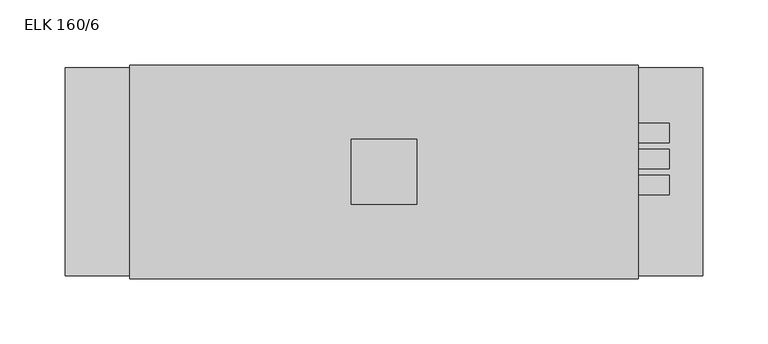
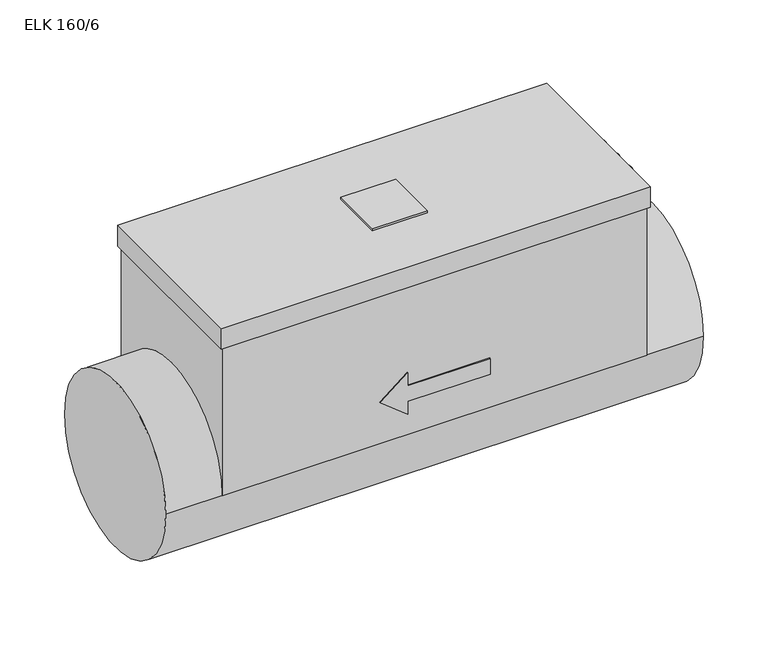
"""IFC4 building model written with IfcOpenShell, lengths in millimetres: proxy geometry, KORF_Нагреватель_Электрический_Круглый_ELK : ELK 160/6."""

import ifcopenshell
import ifcopenshell.guid

model = None  # the IFC model being written
_history = None  # IfcOwnerHistory: only IFC2X3 demands one
_inside = {}  # id of a spatial element -> (the spatial element, [elements in it])
_under = {}  # id of a project, library or spatial element -> (it, [spatial elements below it])
_declared = {}  # id of a project -> (the project, [libraries it declares])
_typed = {}  # id of a type object -> (the type object, [elements of that type])
_made_of = {}  # id of a material, layer set ... -> (it, [elements and type objects made of it])


def new_model(schema):
    """Start an empty IFC model of exactly this schema.

    Asked for "IFC4X3", IfcOpenShell would pick the latest addendum, in which some entities
    have other attributes; the version numbers below select the first issue.
    IFC2X3 requires an IfcOwnerHistory on every rooted entity: one is made here for all.
    """
    global model, _history
    if schema == "IFC4X3":
        model = ifcopenshell.file(schema_version=(4, 3, 0, 0))
    else:
        model = ifcopenshell.file(schema=schema)
    _inside.clear()
    _under.clear()
    _declared.clear()
    _typed.clear()
    _made_of.clear()
    _history = None
    if model.schema == "IFC2X3":
        org = make("IfcOrganization", Name="unknown")
        user = make(
            "IfcPersonAndOrganization",
            ThePerson=make("IfcPerson", FamilyName="unknown"),
            TheOrganization=org,
        )
        app = make(
            "IfcApplication",
            ApplicationDeveloper=org,
            Version="unknown",
            ApplicationFullName="unknown",
            ApplicationIdentifier="unknown",
        )
        _history = make(
            "IfcOwnerHistory",
            OwningUser=user,
            OwningApplication=app,
            ChangeAction="ADDED",
            CreationDate=0,
        )
    return model


def make(cls, **values):
    """One entity of the class cls with the attributes given. An attribute that is None is left unset."""
    return model.create_entity(
        cls, **{name: value for name, value in values.items() if value is not None}
    )


def rooted(cls, **values):
    """An entity with a GlobalId (a new one), such as an element, a storey or a relation."""
    return make(cls, GlobalId=ifcopenshell.guid.new(), OwnerHistory=_history, **values)


def si_unit(unit_type, name, prefix=None):
    """IfcSIUnit, for example si_unit("LENGTHUNIT", "METRE", prefix="MILLI")."""
    return make("IfcSIUnit", UnitType=unit_type, Prefix=prefix, Name=name)


def assignment(units):
    """IfcUnitAssignment: the units of a project."""
    return None if units is None else make("IfcUnitAssignment", Units=units)


def point(xyz):
    """IfcCartesianPoint."""
    return None if xyz is None else make("IfcCartesianPoint", Coordinates=xyz)


def direction(xyz):
    """IfcDirection."""
    return None if xyz is None else make("IfcDirection", DirectionRatios=xyz)


def frame(location, z_axis=None, x_axis=None):
    """IfcAxis2Placement3D, a coordinate frame: its origin and axes. An axis left out is left unset."""
    return make(
        "IfcAxis2Placement3D",
        Location=point(location),
        Axis=direction(z_axis),
        RefDirection=direction(x_axis),
    )


def frame_2d(location, x_axis=None):
    """IfcAxis2Placement2D, a coordinate frame in the plane: its origin and x axis."""
    return make(
        "IfcAxis2Placement2D", Location=point(location), RefDirection=direction(x_axis)
    )


def origin():
    """The frame at (0, 0, 0) with its axes left unset."""
    return frame((0.0, 0.0, 0.0))


def place(relative_to, where):
    """IfcLocalPlacement: puts the frame where relative to a parent placement (None: the world)."""
    return make(
        "IfcLocalPlacement", PlacementRelTo=relative_to, RelativePlacement=where
    )


def context(
    kind, dimensions, precision=None, world=None, true_north=None, identifier=None
):
    """IfcGeometricRepresentationContext, for example the 3D "Model" context."""
    return make(
        "IfcGeometricRepresentationContext",
        ContextIdentifier=identifier,
        ContextType=kind,
        CoordinateSpaceDimension=dimensions,
        Precision=precision,
        WorldCoordinateSystem=world,
        TrueNorth=true_north,
    )


def project(units=None, contexts=None):
    """IfcProject with its units and contexts."""
    return rooted(
        "IfcProject",
        Name="project",
        RepresentationContexts=contexts,
        UnitsInContext=assignment(units),
    )


def spatial(cls, under=None, at=None, **own):
    """A site, building, storey or space (cls), placed at a placement, below another one or the project."""
    s = rooted(cls, ObjectPlacement=at, **own)
    if under is not None:
        _under.setdefault(under.id(), (under, []))[1].append(s)
    return s


def polyline(points):
    """IfcPolyline through the points."""
    return make("IfcPolyline", Points=[point(p) for p in points])


def circle_curve(where, radius):
    """IfcCircle in the frame where."""
    return make("IfcCircle", Position=where, Radius=radius)


def trimmed(basis, trim1, trim2, sense, master):
    """IfcTrimmedCurve: the piece of a basis curve between two trims."""
    return make(
        "IfcTrimmedCurve",
        BasisCurve=basis,
        Trim1=trim1,
        Trim2=trim2,
        SenseAgreement=sense,
        MasterRepresentation=master,
    )


def segment(curve, same_sense, transition):
    """IfcCompositeCurveSegment."""
    return make(
        "IfcCompositeCurveSegment",
        Transition=transition,
        SameSense=same_sense,
        ParentCurve=curve,
    )


def composite_curve(segments, self_intersect=None):
    """IfcCompositeCurve: segments joined end to end."""
    return make("IfcCompositeCurve", Segments=segments, SelfIntersect=self_intersect)


def outline(outer, holes=None, kind="AREA"):
    """IfcArbitraryClosedProfileDef: a profile drawn as a closed curve; with holes, ...WithVoids."""
    if holes is None:
        return make("IfcArbitraryClosedProfileDef", ProfileType=kind, OuterCurve=outer)
    return make(
        "IfcArbitraryProfileDefWithVoids",
        ProfileType=kind,
        OuterCurve=outer,
        InnerCurves=holes,
    )


def extrude(swept, where, along, depth):
    """IfcExtrudedAreaSolid: the profile swept, set in the frame where, extruded along a direction by depth."""
    return make(
        "IfcExtrudedAreaSolid",
        SweptArea=swept,
        Position=where,
        ExtrudedDirection=direction(along),
        Depth=depth,
    )


def shape(context_of_items, identifier, shape_type, items):
    """IfcShapeRepresentation: the items that make up one representation, for example the "Body"."""
    return make(
        "IfcShapeRepresentation",
        ContextOfItems=context_of_items,
        RepresentationIdentifier=identifier,
        RepresentationType=shape_type,
        Items=items,
    )


def source(mapping_origin, context_of_items, identifier, shape_type, items):
    """IfcRepresentationMap: a shape defined once, which mapped items show again and again."""
    return make(
        "IfcRepresentationMap",
        MappingOrigin=mapping_origin,
        MappedRepresentation=shape(context_of_items, identifier, shape_type, items),
    )


def transform(
    local_origin,
    x_axis=None,
    y_axis=None,
    z_axis=None,
    scale=None,
    scale2=None,
    scale3=None,
    uniform=True,
):
    """IfcCartesianTransformationOperator3D, or its non-uniform kind. x_axis, y_axis, z_axis: its Axis1, 2, 3."""
    if uniform:
        return make(
            "IfcCartesianTransformationOperator3D",
            Axis1=direction(x_axis),
            Axis2=direction(y_axis),
            LocalOrigin=point(local_origin),
            Scale=scale,
            Axis3=direction(z_axis),
        )
    return make(
        "IfcCartesianTransformationOperator3DnonUniform",
        Axis1=direction(x_axis),
        Axis2=direction(y_axis),
        LocalOrigin=point(local_origin),
        Scale=scale,
        Axis3=direction(z_axis),
        Scale2=scale2,
        Scale3=scale3,
    )


def mapped(mapping_source, mapping_target):
    """IfcMappedItem: shows the shape of a source again, moved by a transform."""
    return make(
        "IfcMappedItem", MappingSource=mapping_source, MappingTarget=mapping_target
    )


def made_of(thing, what):
    """Note that an element or type object is made of a material, layer set ...; save() writes the relation."""
    if what is not None:
        _made_of.setdefault(what.id(), (what, []))[1].append(thing)
    return thing


def element(
    cls,
    number,
    at=None,
    inside=None,
    cuts=None,
    type_object=None,
    material=None,
    context=None,
    identifier="Body",
    shape_type=None,
    held_by="IfcProductDefinitionShape",
    body=None,
    shapes=None,
    **own,
):
    """One element of the class cls, such as IfcWall. Its Tag is "e" and its number.

    at: its placement. inside: the storey or other place that contains it. cuts: it is an
    opening in that element (IfcRelVoidsElement). A single representation is given by context,
    identifier, shape_type and body (its items); several are given by shapes. held_by: the class
    of the entity that holds the representations. save() writes the other relations.
    """
    e = rooted(cls, Tag="e%d" % number, ObjectPlacement=at, **own)
    if body is not None:
        shapes = [shape(context, identifier, shape_type, body)]
    if shapes is not None:
        e.Representation = make(held_by, Representations=shapes)
    if inside is not None:
        _inside.setdefault(inside.id(), (inside, []))[1].append(e)
    if cuts is not None:
        rooted(
            "IfcRelVoidsElement", RelatingBuildingElement=cuts, RelatedOpeningElement=e
        )
    if type_object is not None:
        _typed.setdefault(type_object.id(), (type_object, []))[1].append(e)
    return made_of(e, material)


def aggregate(whole, parts):
    """IfcRelAggregates: a whole, such as a stair, and the parts it consists of."""
    return rooted("IfcRelAggregates", RelatingObject=whole, RelatedObjects=parts)


def save(model, path):
    """Write the relations noted so far, then the file.

    IfcRelAggregates (storeys below a building ...), IfcRelContainedInSpatialStructure (elements
    in a storey), IfcRelDefinesByType, IfcRelAssociatesMaterial and IfcRelDeclares: one each for
    every whole, place, type object, material and project.
    """
    for whole, parts in _under.values():
        aggregate(whole, parts)
    for where, things in _inside.values():
        rooted(
            "IfcRelContainedInSpatialStructure",
            RelatedElements=things,
            RelatingStructure=where,
        )
    for kind, things in _typed.values():
        rooted("IfcRelDefinesByType", RelatedObjects=things, RelatingType=kind)
    for what, things in _made_of.values():
        rooted("IfcRelAssociatesMaterial", RelatedObjects=things, RelatingMaterial=what)
    for by, libraries in _declared.values():
        rooted("IfcRelDeclares", RelatingContext=by, RelatedDefinitions=libraries)
    model.write(path)


def plane_surface(at):
    """IfcPlane: the flat surface through the origin of the frame at, square to its z axis."""
    return make("IfcPlane", Position=at)


def cylinder_surface(at, radius):
    """IfcCylindricalSurface: all points at the distance radius from the z axis of the frame at."""
    return make("IfcCylindricalSurface", Position=at, Radius=radius)


def advanced_brep(points, edges, surfaces, faces):
    """IfcAdvancedBrep: a solid bounded by faces that lie on surfaces and meet in shared edges.

    An edge is (start, end): straight between two places in points (the first is 0);
    or (start, end, curve); or (start, end, curve, False) where it runs against its curve.
    A face is (place in surfaces, loops), or (place, loops, False) where it looks against
    its surface's normal. A loop lists edges by number (the first is 1), with a minus sign
    where the edge is run from its end to its start. The first loop is the outer one.
    """
    corners = [point(p) for p in points]
    vertices = [make("IfcVertexPoint", VertexGeometry=c) for c in corners]
    made = []
    for start, end, *more in edges:
        made.append(
            make(
                "IfcEdgeCurve",
                EdgeStart=vertices[start],
                EdgeEnd=vertices[end],
                EdgeGeometry=more[0] if more else make("IfcPolyline", Points=[corners[start], corners[end]]),
                SameSense=more[1] if len(more) > 1 else True,
            )
        )
    hull = []
    for where, loops, *sense in faces:
        bounds = []
        for j, loop in enumerate(loops):
            ring = [make("IfcOrientedEdge", EdgeElement=made[abs(k) - 1], Orientation=k > 0) for k in loop]
            bounds.append(
                make(
                    "IfcFaceOuterBound" if j == 0 else "IfcFaceBound",
                    Bound=make("IfcEdgeLoop", EdgeList=ring),
                    Orientation=True,
                )
            )
        hull.append(make("IfcAdvancedFace", Bounds=bounds, FaceSurface=surfaces[where], SameSense=sense[0] if sense else True))
    return make("IfcAdvancedBrep", Outer=make("IfcClosedShell", CfsFaces=hull))


def elk_160_6_a01fcbb2(model_context):
    return source(origin(), model_context, "Body", "SolidModel", [
        extrude(outline(polyline([(270.0, 25.0), (270.0, -25.0), (220.0, -25.0), (220.0, 25.0), (270.0, 25.0)])), frame((0.0, 0.0, 163.0), z_axis=(0.0, 0.0, 1.0), x_axis=(1.0, 0.0, 0.0)), (0.0, 0.0, 1.0), 2.0),
        extrude(outline(composite_curve([segment(trimmed(circle_curve(frame_2d((-10.0, 123.0)), 7.5), [point((-17.5, 123.0))], [point((-2.5, 123.0))], False, "CARTESIAN"), True, "CONTINUOUS"), segment(trimmed(circle_curve(frame_2d((-10.0, 123.0)), 7.5), [point((-2.5, 123.0))], [point((-17.5, 123.0))], False, "CARTESIAN"), True, "CONTINUOUS")], self_intersect=False)), frame((438.5, 0.0, 0.0), z_axis=(1.0, 0.0, 0.0), x_axis=(0.0, 1.0, 0.0)), (0.0, 0.0, 1.0), 25.75),
        extrude(outline(composite_curve([segment(trimmed(circle_curve(frame_2d((10.0, 123.0)), 7.5), [point((2.5, 123.0))], [point((17.5, 123.0))], False, "CARTESIAN"), True, "CONTINUOUS"), segment(trimmed(circle_curve(frame_2d((10.0, 123.0)), 7.5), [point((17.5, 123.0))], [point((2.5, 123.0))], False, "CARTESIAN"), True, "CONTINUOUS")], self_intersect=False)), frame((438.5, 0.0, 0.0), z_axis=(1.0, 0.0, 0.0), x_axis=(0.0, 1.0, 0.0)), (0.0, 0.0, 1.0), 25.75),
        extrude(outline(composite_curve([segment(trimmed(circle_curve(frame_2d((30.0, 123.0)), 7.5), [point((22.5, 123.0))], [point((37.5, 123.0))], False, "CARTESIAN"), True, "CONTINUOUS"), segment(trimmed(circle_curve(frame_2d((30.0, 123.0)), 7.5), [point((37.5, 123.0))], [point((22.5, 123.0))], False, "CARTESIAN"), True, "CONTINUOUS")], self_intersect=False)), frame((438.5, 0.0, 0.0), z_axis=(1.0, 0.0, 0.0), x_axis=(0.0, 1.0, 0.0)), (0.0, 0.0, 1.0), 25.75),
        advanced_brep(
        [(440.5, 82.0, 143.0), (440.5, -82.0, 143.0), (49.5, -82.0, 143.0), (49.5, 82.0, 143.0), (438.5, 80.0, 143.0), (51.5, 80.0, 143.0), (51.5, -80.0, 143.0), (438.5, -80.0, 143.0), (440.5, 82.0, 163.0), (49.5, 82.0, 163.0), (49.5, -82.0, 163.0), (440.5, -82.0, 163.0), (438.5, 80.0, 0.0), (51.5, 80.0, 0.0), (220.0, 80.0, 60.0), (195.0, 80.0, 40.0), (220.0, 80.0, 20.0), (220.0, 80.0, 32.5), (295.0, 80.0, 32.5), (295.0, 80.0, 47.5), (220.0, 80.0, 47.5), (51.5, -80.0, 0.0), (438.5, -80.0, 0.0), (195.0, -80.0, 40.0), (220.0, -80.0, 60.0), (220.0, -80.0, 47.5), (295.0, -80.0, 47.5), (295.0, -80.0, 32.5), (220.0, -80.0, 32.5), (220.0, -80.0, 20.0), (490.0, -80.0, 0.0), (490.0, 80.0, 0.0), (0.0, -80.0, 0.0), (0.0, 80.0, 0.0), (220.0, -81.0, 60.0), (195.0, -81.0, 40.0), (220.0, -81.0, 20.0), (220.0, -81.0, 32.5), (295.0, -81.0, 32.5), (295.0, -81.0, 47.5), (220.0, -81.0, 47.5), (220.0, 81.0, 60.0), (220.0, 81.0, 47.5), (295.0, 81.0, 47.5), (295.0, 81.0, 32.5), (220.0, 81.0, 32.5), (220.0, 81.0, 20.0), (195.0, 81.0, 40.0)],
        [
            (0, 1),
            (1, 2),
            (2, 3),
            (3, 0),
            (4, 5),
            (5, 6),
            (6, 7),
            (7, 4),
            (8, 9),
            (9, 10),
            (10, 11),
            (11, 8),
            (3, 9),
            (8, 0),
            (2, 10),
            (1, 11),
            (4, 12),
            (12, 13),
            (13, 5),
            (14, 15),
            (15, 16),
            (16, 17),
            (17, 18),
            (18, 19),
            (19, 20),
            (20, 14),
            (13, 21, circle_curve(frame((51.5, 0.0, 0.0), z_axis=(1.0, 0.0, 0.0), x_axis=(0.0, 1.0, 0.0)), 80.0)),
            (21, 6),
            (21, 22),
            (22, 7),
            (23, 24),
            (24, 25),
            (25, 26),
            (26, 27),
            (27, 28),
            (28, 29),
            (29, 23),
            (22, 12, circle_curve(frame((438.5, 0.0, 0.0), z_axis=(-1.0, 0.0, 0.0), x_axis=(0.0, 1.0, 0.0)), 80.0)),
            (30, 31, circle_curve(frame((490.0, 0.0, 0.0), z_axis=(1.0, 0.0, 0.0), x_axis=(0.0, 1.0, 0.0)), 80.0)),
            (31, 30, circle_curve(frame((490.0, 0.0, 0.0), z_axis=(1.0, 0.0, 0.0), x_axis=(0.0, 1.0, 0.0)), 80.0)),
            (32, 33, circle_curve(frame((0.0, 0.0, 0.0), z_axis=(-1.0, 0.0, 0.0), x_axis=(0.0, 1.0, 0.0)), 80.0)),
            (33, 32, circle_curve(frame((0.0, 0.0, 0.0), z_axis=(-1.0, 0.0, 0.0), x_axis=(0.0, 1.0, 0.0)), 80.0)),
            (30, 22),
            (21, 32),
            (33, 13),
            (12, 31),
            (34, 35),
            (35, 36),
            (36, 37),
            (37, 38),
            (38, 39),
            (39, 40),
            (40, 34),
            (41, 42),
            (42, 43),
            (43, 44),
            (44, 45),
            (45, 46),
            (46, 47),
            (47, 41),
            (34, 24),
            (23, 35),
            (47, 15),
            (14, 41),
            (29, 36),
            (46, 16),
            (28, 37),
            (45, 17),
            (27, 38),
            (44, 18),
            (26, 39),
            (43, 19),
            (25, 40),
            (42, 20),
        ],
        [
            plane_surface(frame((49.5, 82.0, 143.0), z_axis=(0.0, 0.0, -1.0), x_axis=(1.0, 0.0, 0.0))),
            plane_surface(frame((49.5, 82.0, 163.0), z_axis=(0.0, 0.0, 1.0), x_axis=(-1.0, 0.0, 0.0))),
            plane_surface(frame((440.5, 82.0, 163.0), z_axis=(0.0, 1.0, 0.0), x_axis=(0.0, 0.0, -1.0))),
            plane_surface(frame((49.5, 82.0, 163.0), z_axis=(-1.0, 0.0, 0.0), x_axis=(0.0, 0.0, -1.0))),
            plane_surface(frame((49.5, -82.0, 163.0), z_axis=(0.0, -1.0, 0.0), x_axis=(0.0, 0.0, -1.0))),
            plane_surface(frame((440.5, -82.0, 163.0), z_axis=(1.0, 0.0, 0.0), x_axis=(0.0, 0.0, -1.0))),
            plane_surface(frame((438.5, 80.0, 163.0), z_axis=(0.0, 1.0, 0.0), x_axis=(0.0, 0.0, -1.0))),
            plane_surface(frame((51.5, 80.0, 163.0), z_axis=(-1.0, 0.0, 0.0), x_axis=(0.0, 0.0, -1.0))),
            plane_surface(frame((51.5, -80.0, 163.0), z_axis=(0.0, -1.0, 0.0), x_axis=(0.0, 0.0, -1.0))),
            plane_surface(frame((438.5, -80.0, 163.0), z_axis=(1.0, 0.0, 0.0), x_axis=(0.0, 0.0, -1.0))),
            plane_surface(frame((490.0, 80.0, 0.0), z_axis=(1.0, 0.0, 0.0), x_axis=(0.0, 0.0, 1.0))),
            plane_surface(frame((0.0, 80.0, 0.0), z_axis=(-1.0, 0.0, 0.0), x_axis=(0.0, 0.0, -1.0))),
            cylinder_surface(frame((0.0, 0.0, 0.0), z_axis=(1.0, 0.0, 0.0), x_axis=(0.0, 1.0, 0.0)), 80.0),
            plane_surface(frame((195.0, -81.0, 40.0), z_axis=(0.0, -1.0, 0.0), x_axis=(-0.7808688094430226, 0.0, -0.6246950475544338))),
            plane_surface(frame((195.0, 81.0, 40.0), z_axis=(0.0, 1.0, 0.0), x_axis=(0.7808688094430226, 0.0, 0.6246950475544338))),
            plane_surface(frame((220.0, -81.0, 60.0), z_axis=(-0.6246950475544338, 0.0, 0.7808688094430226), x_axis=(0.0, 1.0, 0.0))),
            plane_surface(frame((195.0, -81.0, 40.0), z_axis=(-0.6246950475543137, 0.0, -0.7808688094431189), x_axis=(0.0, 1.0, 0.0))),
            plane_surface(frame((220.0, -81.0, 20.0), z_axis=(1.0, 0.0, 0.0), x_axis=(0.0, 1.0, 0.0))),
            plane_surface(frame((220.0, -81.0, 32.5), z_axis=(0.0, 0.0, -1.0), x_axis=(0.0, 1.0, 0.0))),
            plane_surface(frame((295.0, -81.0, 32.5), z_axis=(1.0, 0.0, 0.0), x_axis=(0.0, 1.0, 0.0))),
            plane_surface(frame((295.0, -81.0, 47.5), z_axis=(0.0, 0.0, 1.0), x_axis=(0.0, 1.0, 0.0))),
            plane_surface(frame((220.0, -81.0, 47.5), z_axis=(1.0, 0.0, 0.0), x_axis=(0.0, 1.0, 0.0))),
        ],
        [
            (0, [[1, 2, 3, 4], [5, 6, 7, 8]]),
            (1, [[9, 10, 11, 12]]),
            (2, [[-4, 13, -9, 14]]),
            (3, [[-3, 15, -10, -13]]),
            (4, [[-2, 16, -11, -15]]),
            (5, [[-1, -14, -12, -16]]),
            (6, [[17, 18, 19, -5], [20, 21, 22, 23, 24, 25, 26]]),
            (7, [[-19, 27, 28, -6]]),
            (8, [[-28, 29, 30, -7], [31, 32, 33, 34, 35, 36, 37]]),
            (9, [[-17, -8, -30, 38]]),
            (10, [[39, 40]]),
            (11, [[41, 42]]),
            (12, [[-39, 43, -29, 44, -42, 45, -18, 46]]),
            (12, [[-40, -46, -38, -43]]),
            (12, [[-41, -44, -27, -45]]),
            (13, [[47, 48, 49, 50, 51, 52, 53]]),
            (14, [[54, 55, 56, 57, 58, 59, 60]]),
            (15, [[-47, 61, -31, 62]]),
            (15, [[-60, 63, -20, 64]]),
            (16, [[-48, -62, -37, 65]]),
            (16, [[-59, 66, -21, -63]]),
            (17, [[-49, -65, -36, 67]]),
            (17, [[-58, 68, -22, -66]]),
            (18, [[-50, -67, -35, 69]]),
            (18, [[-57, 70, -23, -68]]),
            (19, [[-51, -69, -34, 71]]),
            (19, [[-56, 72, -24, -70]]),
            (20, [[-52, -71, -33, 73]]),
            (20, [[-55, 74, -25, -72]]),
            (21, [[-53, -73, -32, -61]]),
            (21, [[-54, -64, -26, -74]]),
        ],
    ),
    ])


if __name__ == "__main__":
    model = new_model("IFC4")
    model_context = context("Model", 3, world=origin())
    ifc_project = project(units=[si_unit("LENGTHUNIT", "METRE", prefix="MILLI")], contexts=[model_context])
    site = spatial("IfcSite", under=ifc_project)
    building = spatial("IfcBuilding", under=site)
    placement = place(None, origin())
    elk_160_6_shape = elk_160_6_a01fcbb2(model_context)
    element("IfcBuildingElementProxy", 1, Name="KORF_Нагреватель_Электрический_Круглый_ELK : ELK 160/6", ObjectType="KORF_Нагреватель_Электрический_Круглый_ELK : ELK 160/6", at=placement, inside=building, context=model_context, shape_type="MappedRepresentation", body=[
        mapped(elk_160_6_shape, transform((0.0, 0.0, 0.0), x_axis=(1.0, 0.0, 0.0), y_axis=(0.0, 1.0, 0.0), z_axis=(0.0, 0.0, 1.0))),
    ])
    save(model, "model.ifc")
